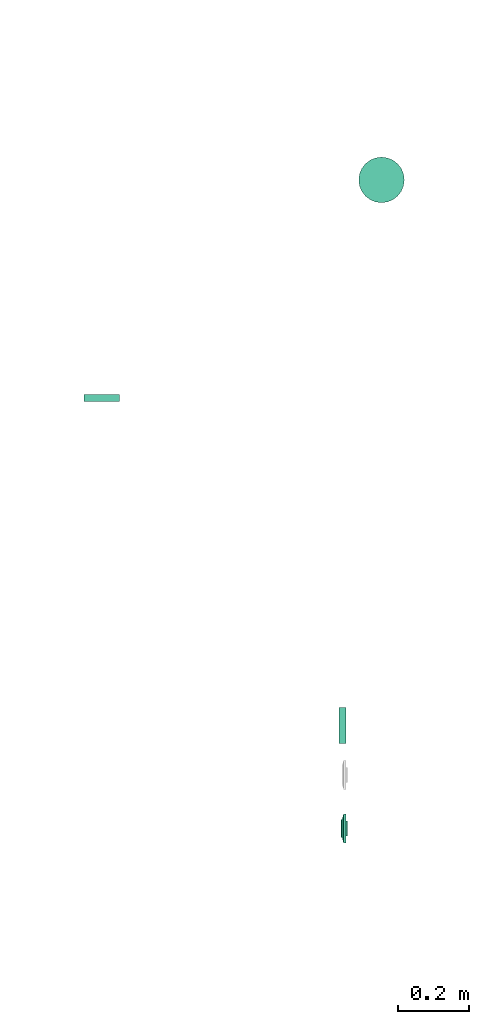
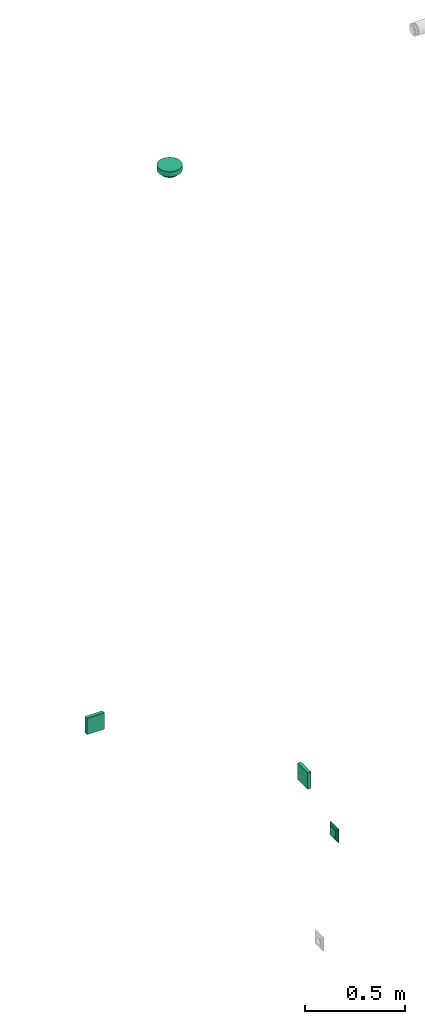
# One storey, part 144 of 153: 3 flow terminals, 1 distribution control element.
"""IFC2X3 building model written with IfcOpenShell, lengths in metres."""

from ifc_helpers import new_model, entity, si_unit, converted_unit, derived_unit, direction, frame, origin, origin_2d_with_axis, place, context, subcontext, project, spatial, rectangle, extrude, faceted_brep, source, transform, mapped, type_object, type_shapes, element, save


model = new_model("IFC2X3")

# Units and contexts
model_context = context("Model", 3, precision=1e-05, world=origin(), true_north=direction((6.12303176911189e-17, 1.0)))
body_context = subcontext(model_context, "Body", "Model", "MODEL_VIEW")
ifc_project = project(units=[si_unit("LENGTHUNIT", "METRE"), si_unit("AREAUNIT", "SQUARE_METRE"), si_unit("VOLUMEUNIT", "CUBIC_METRE"), converted_unit("PLANEANGLEUNIT", "DEGREE", entity("IfcRatioMeasure", 0.0174532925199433), si_unit("PLANEANGLEUNIT", "RADIAN"), dimensions=[0, 0, 0, 0, 0, 0, 0]), si_unit("MASSUNIT", "GRAM", prefix="KILO"), derived_unit("MASSDENSITYUNIT", [(si_unit("MASSUNIT", "GRAM", prefix="KILO"), 1), (si_unit("LENGTHUNIT", "METRE"), -3)]), si_unit("TIMEUNIT", "SECOND"), si_unit("FREQUENCYUNIT", "HERTZ"), si_unit("THERMODYNAMICTEMPERATUREUNIT", "DEGREE_CELSIUS"), derived_unit("THERMALTRANSMITTANCEUNIT", [(si_unit("MASSUNIT", "GRAM", prefix="KILO"), 1), (si_unit("THERMODYNAMICTEMPERATUREUNIT", "KELVIN"), -1), (si_unit("TIMEUNIT", "SECOND"), -3)]), derived_unit("VOLUMETRICFLOWRATEUNIT", [(si_unit("LENGTHUNIT", "METRE"), 3), (si_unit("TIMEUNIT", "SECOND"), -1)]), si_unit("ELECTRICCURRENTUNIT", "AMPERE"), si_unit("ELECTRICVOLTAGEUNIT", "VOLT"), si_unit("POWERUNIT", "WATT"), si_unit("FORCEUNIT", "NEWTON"), si_unit("ILLUMINANCEUNIT", "LUX"), si_unit("LUMINOUSFLUXUNIT", "LUMEN"), si_unit("LUMINOUSINTENSITYUNIT", "CANDELA"), derived_unit("USERDEFINED", [(si_unit("MASSUNIT", "GRAM", prefix="KILO"), -1), (si_unit("LENGTHUNIT", "METRE"), -2), (si_unit("TIMEUNIT", "SECOND"), 3), (si_unit("LUMINOUSFLUXUNIT", "LUMEN"), 1)]), derived_unit("LINEARVELOCITYUNIT", [(si_unit("LENGTHUNIT", "METRE"), 1), (si_unit("TIMEUNIT", "SECOND"), -1)]), si_unit("PRESSUREUNIT", "PASCAL"), derived_unit("USERDEFINED", [(si_unit("LENGTHUNIT", "METRE"), -2), (si_unit("MASSUNIT", "GRAM", prefix="KILO"), 1), (si_unit("TIMEUNIT", "SECOND"), -2)])], contexts=[model_context])

# Site, building, storey
site_placement = place(None, origin())
site = spatial("IfcSite", under=ifc_project, at=site_placement, Name="Default", CompositionType="ELEMENT")
building_placement = place(site_placement, origin())
building = spatial("IfcBuilding", under=site, at=building_placement, CompositionType="ELEMENT")
storey_placement = place(building_placement, frame((0.0, 0.0, -4.62)))
storey = spatial("IfcBuildingStorey", under=building, at=storey_placement, Name="S02", CompositionType="ELEMENT", Elevation=-4.62)

# Flow terminals
light_fixture_type_1 = type_object("IfcLightFixtureType", Name="Détecteur 360°", PredefinedType="NOTDEFINED")
shared_shape_1 = source(origin(), body_context, "Body", "Brep", [
    faceted_brep([(0.0, -0.0397165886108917, 0.0531256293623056), (0.0, -0.034524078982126, 0.0563702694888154), (-0.0175153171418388, -0.0435914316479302, 0.0478512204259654), (-0.0194029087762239, -0.000878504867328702, 0.0644483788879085), (0.0, 0.0, 0.0669999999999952), (0.0, 0.00603476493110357, 0.0659648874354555), (-0.0174057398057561, -0.0159851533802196, 0.0630502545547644), (-0.0366619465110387, -0.0127227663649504, 0.0549213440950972), (-0.026998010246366, -0.0195753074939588, 0.0584711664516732), (-0.0202403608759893, -0.0335607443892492, 0.054639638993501), (-0.0359767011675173, -0.0348394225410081, 0.0444249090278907), (-0.0276843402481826, -0.0401006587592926, 0.0459804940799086), (-0.0133088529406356, -0.0517577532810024, 0.0400582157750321), (-0.0172617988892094, -0.0486391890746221, 0.042533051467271), (-0.0256912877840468, -0.0533485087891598, 0.0299999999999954), (-0.0462941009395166, -0.0369183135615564, 0.0299999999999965), (0.0, -0.0241390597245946, 0.0628595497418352), (-0.0186245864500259, -0.0267295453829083, 0.0589100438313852), (-0.0139070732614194, -0.0374370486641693, 0.0540817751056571), (0.0, 0.0449090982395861, 0.049880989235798), (-0.0172618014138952, 0.0486391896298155, 0.0425330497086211), (0.0, 0.0397165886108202, 0.0531256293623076), (-0.0186245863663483, 0.0267295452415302, 0.0589100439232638), (-0.0202403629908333, 0.0335607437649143, 0.054639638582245), (-0.0353547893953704, 0.0284533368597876, 0.0494330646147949), (0.0, 0.0120695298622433, 0.0649297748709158), (-0.0249385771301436, 0.0204731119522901, 0.0590841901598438), (-0.0191783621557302, 0.0150189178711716, 0.062775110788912), (-0.0465404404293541, -0.0196510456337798, 0.0438984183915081), (-0.052010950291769, -0.0250471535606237, 0.029999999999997), (-0.0453471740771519, -0.0286501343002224, 0.0397747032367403), (-0.0365036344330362, -0.0226255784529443, 0.0516441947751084), (-0.0175153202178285, 0.0435914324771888, 0.0478512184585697), (-0.0359926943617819, 0.0451334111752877, 0.0299999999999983), (-0.0276843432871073, 0.0401006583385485, 0.0459804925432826), (-0.00849704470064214, -0.0572729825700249, 0.0299999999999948), (0.0, -0.0592123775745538, 0.0299999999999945), (0.0, -0.0545512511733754, 0.0364787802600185), (0.0, -0.049890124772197, 0.0429575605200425), (-0.0169940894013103, -0.055333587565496, 0.0299999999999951), (-0.0359767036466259, 0.0348394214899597, 0.0444249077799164), (-0.025691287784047, 0.0533485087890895, 0.0299999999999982), (-0.0308419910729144, 0.0492409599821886, 0.0299999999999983), (-0.0130265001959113, 0.0514867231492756, 0.040526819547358), (-0.0169940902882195, 0.0553335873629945, 0.029999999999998), (0.0, 0.0498901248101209, 0.0429575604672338), (-0.0353547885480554, -0.0284533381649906, 0.0494330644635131), (0.0, 0.0181042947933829, 0.0638946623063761), (-0.0473669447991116, -0.00128092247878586, 0.0474310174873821), (-0.0485435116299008, -0.00908961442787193, 0.0452357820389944), (-0.0366597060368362, -0.0032867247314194, 0.0563153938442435), (-0.0226425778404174, -0.0107553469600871, 0.0624973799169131), (0.0, -0.00603476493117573, 0.0659648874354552), (0.0, 0.0293315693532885, 0.0596149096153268), (-0.0139070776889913, 0.0374370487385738, 0.0540817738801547), (-0.0449600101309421, 0.018422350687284, 0.0461366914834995), (-0.0453471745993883, 0.0286501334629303, 0.0397747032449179), (-0.0476906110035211, 0.00670602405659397, 0.0466053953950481), (-0.0577277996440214, 0.0131759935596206, 0.0299999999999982), (-0.0577277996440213, 0.00658799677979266, 0.029999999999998), (-0.0577277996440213, 0.0, 0.0299999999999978), (0.0, -0.0449090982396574, 0.0498809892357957), (-0.0308419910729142, -0.049240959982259, 0.0299999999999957), (-0.0359926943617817, -0.0451334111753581, 0.029999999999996), (0.0, 0.0345240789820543, 0.0563702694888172), (-0.0411433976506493, 0.0410258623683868, 0.0299999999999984), (-0.0462941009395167, 0.0369183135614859, 0.0299999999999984), (-0.0491525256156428, -0.03098273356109, 0.0299999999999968), (-0.0577277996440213, -0.0131759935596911, 0.0299999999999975), (0.0, -0.018104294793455, 0.0638946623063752), (-0.0377433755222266, 0.0044838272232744, 0.0554913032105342), (-0.0577277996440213, -0.00658799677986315, 0.0299999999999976), (-0.0385149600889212, 0.0124844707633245, 0.0536578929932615), (-0.0491525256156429, 0.0309827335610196, 0.0299999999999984), (-0.0548693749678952, 0.0191115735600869, 0.0299999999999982), (0.0, 0.0241390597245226, 0.0628595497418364), (-0.014625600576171, 0.0100436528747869, 0.0649170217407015), (-0.0271766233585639, 0.00920278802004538, 0.0609170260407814), (0.0, -0.0120695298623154, 0.0649297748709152), (-0.0520109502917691, 0.0250471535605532, 0.0299999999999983), (-0.0411433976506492, -0.0410258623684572, 0.0299999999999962), (-0.0548693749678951, -0.0191115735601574, 0.0299999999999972), (0.0, -0.0293315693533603, 0.0596149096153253), (0.0, 0.0545512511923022, 0.0364787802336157), (0.0, 0.0592123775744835, 0.0299999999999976), (-0.00849704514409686, 0.057272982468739, 0.0299999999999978), (-0.0127455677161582, 0.0563032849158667, 0.0299999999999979), (-0.0213426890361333, 0.054341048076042, 0.0299999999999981), (0.0175153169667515, 0.0435914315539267, 0.0478512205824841), (0.0194029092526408, 0.000878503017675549, 0.0644483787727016), (0.017405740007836, 0.0159851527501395, 0.0630502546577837), (0.0366619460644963, 0.012722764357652, 0.0549213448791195), (0.0269980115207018, 0.0195753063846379, 0.0584711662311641), (0.0202403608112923, 0.0335607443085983, 0.0546396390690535), (0.0359767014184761, 0.0348394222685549, 0.0444249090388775), (0.0276843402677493, 0.0401006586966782, 0.0459804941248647), (0.0133088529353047, 0.0517577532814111, 0.0400582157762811), (0.0172617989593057, 0.0486391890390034, 0.0425330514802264), (0.0256912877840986, 0.0533485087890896, 0.0299999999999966), (0.0462941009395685, 0.0369183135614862, 0.0299999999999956), (0.00849704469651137, 0.0572729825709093, 0.0299999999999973), (0.0169940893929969, 0.0553335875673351, 0.029999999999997), (0.0172617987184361, -0.0486391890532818, 0.0425330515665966), (0.025691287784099, -0.0533485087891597, 0.0299999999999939), (0.0308419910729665, -0.0492409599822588, 0.0299999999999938), (0.0175153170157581, -0.0435914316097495, 0.0478512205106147), (0.0186245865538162, -0.0267295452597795, 0.0589100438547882), (0.0202403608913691, -0.03356074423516, 0.0546396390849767), (0.0353547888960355, -0.0284533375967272, 0.0494330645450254), (0.0249385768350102, -0.0204731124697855, 0.0590841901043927), (0.0191783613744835, -0.0150189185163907, 0.062775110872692), (0.0465404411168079, 0.0196510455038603, 0.0438984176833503), (0.0577277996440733, 0.0131759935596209, 0.0299999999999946), (0.0548693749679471, 0.0191115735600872, 0.0299999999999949), (0.0520109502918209, 0.0250471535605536, 0.0299999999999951), (0.0365036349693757, 0.0226255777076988, 0.0516441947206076), (0.0186245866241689, 0.0267295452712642, 0.0589100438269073), (0.0359926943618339, -0.0451334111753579, 0.0299999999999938), (0.0276843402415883, -0.0401006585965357, 0.0459804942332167), (0.0139070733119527, 0.0374370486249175, 0.0540817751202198), (0.0359767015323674, -0.0348394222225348, 0.044424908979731), (0.0226425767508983, 0.0107553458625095, 0.0624973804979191), (0.0169940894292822, -0.0553335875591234, 0.0299999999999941), (0.0130264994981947, -0.0514867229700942, 0.0405268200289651), (0.0453471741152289, 0.0286501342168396, 0.039774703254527), (0.0353547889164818, 0.0284533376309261, 0.0494330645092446), (0.0473669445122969, 0.00128092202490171, 0.0474310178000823), (0.0485435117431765, 0.00908961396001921, 0.0452357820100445), (0.0366597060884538, 0.00328672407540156, 0.0563153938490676), (0.0139070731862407, -0.0374370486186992, 0.0540817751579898), (0.0449600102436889, -0.018422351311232, 0.0461366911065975), (0.0453471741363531, -0.0286501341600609, 0.039774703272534), (0.0476906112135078, -0.00670602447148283, 0.046605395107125), (0.0577277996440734, -0.0131759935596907, 0.0299999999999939), (0.0577277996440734, -0.00658799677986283, 0.0299999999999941), (0.0577277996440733, 0.0, 0.0299999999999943), (0.0308419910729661, 0.0492409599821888, 0.0299999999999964), (0.0359926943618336, 0.0451334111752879, 0.0299999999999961), (0.0411433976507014, -0.041025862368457, 0.0299999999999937), (0.0462941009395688, -0.0369183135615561, 0.0299999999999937), (0.0491525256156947, 0.0309827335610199, 0.0299999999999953), (0.037743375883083, -0.00448382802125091, 0.0554913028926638), (0.0577277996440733, 0.00658799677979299, 0.0299999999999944), (0.0385149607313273, -0.0124844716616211, 0.0536578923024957), (0.049152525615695, -0.0309827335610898, 0.0299999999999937), (0.0548693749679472, -0.0191115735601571, 0.0299999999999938), (0.0146256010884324, -0.0100436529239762, 0.0649170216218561), (0.0271766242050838, -0.00920278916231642, 0.0609170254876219), (0.0520109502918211, -0.0250471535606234, 0.0299999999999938), (0.041143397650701, 0.0410258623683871, 0.0299999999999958), (0.00849704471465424, -0.0572729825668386, 0.0299999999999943), (0.0127455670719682, -0.056303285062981, 0.0299999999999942), (0.0213426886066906, -0.0543410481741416, 0.029999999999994), (0.0, 0.0, 0.0299999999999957)], [[[0, 1, 2]], [[3, 4, 5]], [[6, 7, 8]], [[9, 10, 11]], [[12, 13, 14]], [[10, 15, 11]], [[9, 16, 17]], [[18, 9, 11]], [[19, 20, 21]], [[22, 23, 24]], [[25, 26, 27]], [[28, 29, 30]], [[8, 31, 17]], [[32, 33, 34]], [[35, 36, 37, 38, 39]], [[23, 40, 24]], [[20, 41, 42]], [[19, 43, 20]], [[44, 43, 45]], [[20, 32, 21]], [[30, 10, 46]], [[22, 26, 47]], [[48, 49, 50]], [[3, 51, 52]], [[53, 54, 23]], [[55, 24, 56]], [[57, 58, 59, 60]], [[13, 61, 0]], [[13, 0, 2]], [[2, 62, 13]], [[18, 2, 1]], [[2, 11, 63]], [[32, 64, 21]], [[32, 42, 33]], [[34, 33, 65, 66]], [[20, 42, 32]], [[54, 32, 34]], [[28, 30, 31]], [[10, 67, 15]], [[49, 68, 28]], [[8, 17, 69]], [[7, 6, 51]], [[28, 31, 7]], [[57, 48, 70]], [[58, 57, 55]], [[48, 71, 49]], [[70, 48, 50]], [[3, 50, 51]], [[55, 26, 24]], [[72, 57, 70]], [[26, 55, 72]], [[56, 40, 73]], [[56, 74, 55]], [[47, 75, 22]], [[52, 4, 3]], [[7, 50, 49]], [[5, 76, 3]], [[70, 3, 77]], [[51, 78, 52]], [[26, 25, 47]], [[76, 25, 27]], [[23, 22, 75]], [[26, 22, 24]], [[53, 64, 54]], [[23, 34, 40]], [[66, 40, 34]], [[40, 66, 73]], [[56, 73, 79, 74]], [[72, 27, 26]], [[40, 56, 24]], [[23, 75, 53]], [[69, 17, 16]], [[78, 6, 69]], [[46, 10, 9]], [[46, 9, 17]], [[50, 7, 51]], [[30, 29, 67]], [[80, 63, 11, 15]], [[28, 68, 81, 29]], [[10, 30, 67]], [[30, 46, 31]], [[82, 18, 1]], [[82, 16, 9]], [[28, 7, 49]], [[12, 39, 38]], [[61, 13, 12]], [[83, 84, 85, 86, 44, 45]], [[43, 41, 20]], [[44, 87, 41, 43]], [[32, 54, 64]], [[23, 54, 34]], [[9, 18, 82]], [[2, 18, 11]], [[39, 12, 14]], [[38, 61, 12]], [[62, 2, 63]], [[62, 14, 13]], [[17, 31, 46]], [[7, 31, 8]], [[48, 60, 71]], [[71, 68, 49]], [[60, 48, 57]], [[3, 70, 50]], [[72, 70, 77]], [[72, 77, 27]], [[55, 57, 72]], [[74, 58, 55]], [[76, 27, 77]], [[3, 76, 77]], [[25, 76, 5]], [[69, 6, 8]], [[78, 51, 6]], [[45, 43, 19]], [[21, 64, 88]], [[89, 4, 52]], [[90, 91, 92]], [[93, 94, 95]], [[96, 97, 98]], [[94, 99, 95]], [[100, 84, 83, 45, 101]], [[102, 103, 104]], [[102, 105, 0]], [[106, 107, 108]], [[78, 109, 110]], [[111, 112, 113, 114]], [[92, 115, 116]], [[105, 117, 118]], [[119, 93, 95]], [[107, 120, 108]], [[89, 121, 5]], [[122, 123, 38]], [[61, 123, 102]], [[93, 75, 116]], [[124, 94, 125]], [[106, 109, 69]], [[126, 127, 128]], [[61, 102, 0]], [[82, 129, 107]], [[130, 108, 131]], [[132, 133, 134, 135]], [[97, 19, 21]], [[97, 21, 88]], [[88, 136, 97]], [[119, 88, 64]], [[88, 95, 137]], [[105, 1, 0]], [[105, 104, 117]], [[118, 117, 138, 139]], [[102, 104, 105]], [[129, 105, 118]], [[111, 124, 115]], [[94, 140, 99]], [[127, 112, 111]], [[92, 116, 47]], [[91, 90, 121]], [[111, 115, 91]], [[132, 126, 141]], [[133, 132, 130]], [[126, 142, 127]], [[141, 126, 128]], [[89, 128, 121]], [[130, 109, 108]], [[143, 132, 141]], [[109, 130, 143]], [[131, 120, 144]], [[131, 145, 130]], [[69, 16, 106]], [[5, 4, 89]], [[91, 128, 127]], [[52, 146, 89]], [[141, 89, 147]], [[121, 25, 5]], [[109, 78, 69]], [[146, 78, 110]], [[107, 106, 16]], [[109, 106, 108]], [[82, 1, 129]], [[107, 118, 120]], [[139, 120, 118]], [[120, 139, 144]], [[131, 144, 148, 145]], [[143, 110, 109]], [[120, 131, 108]], [[107, 16, 82]], [[47, 116, 75]], [[25, 90, 47]], [[125, 94, 93]], [[125, 93, 116]], [[128, 91, 121]], [[124, 114, 140]], [[149, 137, 95, 99]], [[111, 114, 124]], [[94, 124, 140]], [[124, 125, 115]], [[53, 119, 64]], [[53, 75, 93]], [[111, 91, 127]], [[96, 101, 45]], [[19, 97, 96]], [[37, 36, 150, 151, 122, 38]], [[123, 103, 102]], [[122, 152, 103, 123]], [[105, 129, 1]], [[107, 129, 118]], [[93, 119, 53]], [[88, 119, 95]], [[101, 96, 98]], [[45, 19, 96]], [[136, 88, 137]], [[136, 98, 97]], [[116, 115, 125]], [[91, 115, 92]], [[126, 135, 142]], [[142, 112, 127]], [[135, 126, 132]], [[89, 141, 128]], [[143, 141, 147]], [[143, 147, 110]], [[130, 132, 143]], [[145, 133, 130]], [[146, 110, 147]], [[89, 146, 147]], [[78, 146, 52]], [[47, 90, 92]], [[25, 121, 90]], [[38, 123, 61]], [[153, 66, 65]], [[153, 65, 33]], [[153, 33, 42]], [[153, 42, 41]], [[153, 41, 87]], [[153, 73, 66]], [[153, 79, 73]], [[153, 74, 79]], [[153, 58, 74]], [[153, 87, 44]], [[153, 44, 86]], [[153, 86, 85]], [[153, 85, 84]], [[153, 84, 100]], [[153, 59, 58]], [[153, 60, 59]], [[153, 71, 60]], [[153, 68, 71]], [[153, 81, 68]], [[153, 29, 81]], [[153, 67, 29]], [[153, 15, 67]], [[153, 80, 15]], [[153, 63, 80]], [[153, 62, 63]], [[153, 14, 62]], [[153, 39, 14]], [[153, 35, 39]], [[153, 36, 35]], [[153, 100, 101]], [[153, 101, 98]], [[153, 98, 136]], [[153, 136, 137]], [[153, 137, 149]], [[153, 149, 99]], [[153, 99, 140]], [[153, 140, 114]], [[153, 114, 113]], [[153, 113, 112]], [[153, 112, 142]], [[153, 150, 36]], [[153, 151, 150]], [[153, 122, 151]], [[153, 152, 122]], [[153, 103, 152]], [[153, 104, 103]], [[153, 117, 104]], [[153, 138, 117]], [[153, 139, 138]], [[153, 144, 139]], [[153, 148, 144]], [[153, 145, 148]], [[153, 133, 145]], [[153, 142, 135]], [[153, 135, 134]], [[153, 134, 133]]]),
    faceted_brep([(0.0165644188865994, -0.0618192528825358, 0.029999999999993), (0.0320000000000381, -0.0554256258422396, 0.0299999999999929), (0.0452548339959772, -0.0452548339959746, 0.0299999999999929), (0.0554256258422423, -0.0320000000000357, 0.029999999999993), (0.0618192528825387, -0.016564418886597, 0.0299999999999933), (0.0640000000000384, 0.0, 0.0299999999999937), (0.0618192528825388, 0.016564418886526, 0.0299999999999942), (0.0554256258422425, 0.0319999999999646, 0.0299999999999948), (0.0452548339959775, 0.0452548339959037, 0.0299999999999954), (0.0320000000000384, 0.0554256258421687, 0.0299999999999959), (0.0165644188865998, 0.061819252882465, 0.0299999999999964), (0.0, 0.0639999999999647, 0.0299999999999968), (-0.0165644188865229, 0.061819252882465, 0.0299999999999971), (-0.0319999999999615, 0.0554256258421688, 0.0299999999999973), (-0.0452548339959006, 0.0452548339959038, 0.0299999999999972), (-0.0554256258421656, 0.0319999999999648, 0.0299999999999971), (-0.0618192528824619, 0.0165644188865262, 0.0299999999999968), (-0.0639999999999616, 0.0, 0.0299999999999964), (-0.061819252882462, -0.0165644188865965, 0.0299999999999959), (-0.0554256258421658, -0.0320000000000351, 0.0299999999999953), (-0.0452548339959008, -0.0452548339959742, 0.0299999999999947), (-0.0319999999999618, -0.0554256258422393, 0.0299999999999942), (-0.0165644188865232, -0.0618192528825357, 0.0299999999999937), (0.0, -0.0640000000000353, 0.0299999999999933), (0.0165644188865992, 0.0618192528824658, 0.0), (0.0320000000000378, 0.0554256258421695, 0.0), (0.0452548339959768, 0.0452548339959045, 0.0), (0.0554256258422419, 0.0319999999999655, 0.0), (0.0618192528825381, 0.0165644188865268, 0.0), (0.0640000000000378, 0.0, 0.0), (0.061819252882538, -0.0165644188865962, 0.0), (0.0554256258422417, -0.0320000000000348, 0.0), (0.0452548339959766, -0.0452548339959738, 0.0), (0.0320000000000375, -0.0554256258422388, 0.0), (0.0165644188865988, -0.061819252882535, 0.0), (0.0, -0.0640000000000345, 0.0), (-0.0165644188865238, -0.0618192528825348, 0.0), (-0.0319999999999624, -0.0554256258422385, 0.0), (-0.0452548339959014, -0.0452548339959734, 0.0), (-0.0554256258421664, -0.0320000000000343, 0.0), (-0.0618192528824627, -0.0165644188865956, 0.0), (-0.0639999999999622, 0.0, 0.0), (-0.0618192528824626, 0.016564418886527, 0.0), (-0.0554256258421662, 0.0319999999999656, 0.0), (-0.0452548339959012, 0.0452548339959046, 0.0), (-0.0319999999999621, 0.0554256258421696, 0.0), (-0.0165644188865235, 0.0618192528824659, 0.0), (0.0, 0.0639999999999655, 0.0)], [[[0, 1, 2, 3, 4, 5, 6, 7, 8, 9, 10, 11, 12, 13, 14, 15, 16, 17, 18, 19, 20, 21, 22, 23]], [[24, 25, 26, 27, 28, 29, 30, 31, 32, 33, 34, 35, 36, 37, 38, 39, 40, 41, 42, 43, 44, 45, 46, 47]], [[40, 18, 17, 41]], [[39, 19, 18, 40]], [[21, 20, 38, 37]], [[39, 38, 20, 19]], [[22, 21, 37, 36]], [[23, 22, 36, 35]], [[34, 0, 23, 35]], [[33, 1, 0, 34]], [[3, 2, 32, 31]], [[33, 32, 2, 1]], [[4, 3, 31, 30]], [[5, 4, 30, 29]], [[28, 6, 5, 29]], [[27, 7, 6, 28]], [[9, 8, 26, 25]], [[27, 26, 8, 7]], [[10, 9, 25, 24]], [[11, 10, 24, 47]], [[46, 12, 11, 47]], [[45, 13, 12, 46]], [[42, 41, 17, 16]], [[44, 14, 13, 45]], [[43, 15, 14, 44]], [[43, 42, 16, 15]]]),
])
type_shapes(light_fixture_type_1, [shared_shape_1])
flow_terminal_1_placement = place(storey_placement, frame((65.4897436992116, -184.304488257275, 3.79999999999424), z_axis=(0.0, 0.0, -1.0), x_axis=(1.0, 0.0, 0.0)))
element("IfcFlowTerminal", 1, at=flow_terminal_1_placement, inside=storey, type_object=light_fixture_type_1, Name="INT - Détecteur 360°:Détecteur 360°", ObjectType="INT - Détecteur 360°:Détecteur 360°", context=body_context, shape_type="MappedRepresentation", body=[
    mapped(shared_shape_1, transform((0.0, 0.0, 0.0), scale=1.0)),
])
light_fixture_type_2 = type_object("IfcLightFixtureType", Name="Default", PredefinedType="NOTDEFINED")
shared_shape_2 = source(origin(), body_context, "Body", "SweptSolid", [
    extrude(rectangle(XDim=0.1, YDim=0.1, at=origin_2d_with_axis()), frame((0.0, 0.0, 0.0), z_axis=(0.0, 0.0, 1.0), x_axis=(0.0, 1.0, 0.0)), (0.0, 0.0, 1.0), 0.02),
])
type_shapes(light_fixture_type_2, [shared_shape_2])
flow_terminal_2_placement = place(storey_placement, frame((64.7043065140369, -184.926487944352, 1.05000000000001), z_axis=(0.0, 1.0, 0.0), x_axis=(-1.0, 0.0, 0.0)))
element("IfcFlowTerminal", 2, at=flow_terminal_2_placement, inside=storey, type_object=light_fixture_type_2, Name="E_Reader_Badge 1_F_MEPcontent:Default", ObjectType="E_Reader_Badge 1_F_MEPcontent:Default", context=body_context, shape_type="MappedRepresentation", body=[
    mapped(shared_shape_2, transform((0.0, 0.0, 0.0), scale=1.0)),
])
light_fixture_type_3 = type_object("IfcLightFixtureType", Name="VV IP44", PredefinedType="NOTDEFINED")
shared_shape_3 = source(origin(), body_context, "Body", "Brep", [
    faceted_brep([(0.0, 0.0209999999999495, -0.00460000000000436), (0.00543519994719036, 0.02028444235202, -0.00460000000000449), (0.0105000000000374, 0.0181865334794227, -0.00460000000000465), (0.0148492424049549, 0.014849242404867, -0.00460000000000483), (0.0181865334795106, 0.0104999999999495, -0.00460000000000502), (0.0202844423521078, 0.00543519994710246, -0.00460000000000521), (0.0210000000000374, 0.0, -0.00460000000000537), (0.0202844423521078, -0.00543519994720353, -0.00460000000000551), (0.0181865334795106, -0.0105000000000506, -0.0046000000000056), (0.0148492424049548, -0.0148492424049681, -0.00460000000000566), (0.0105000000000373, -0.0181865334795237, -0.00460000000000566), (0.00543519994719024, -0.0202844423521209, -0.00460000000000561), (0.0, -0.0210000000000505, -0.00460000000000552), (-0.00543519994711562, -0.0202844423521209, -0.00460000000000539), (-0.0104999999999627, -0.0181865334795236, -0.00460000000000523), (-0.0148492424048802, -0.0148492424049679, -0.00460000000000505), (-0.0181865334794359, -0.0105000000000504, -0.00460000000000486), (-0.0202844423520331, -0.00543519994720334, -0.00460000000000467), (-0.0209999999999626, 0.0, -0.00460000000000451), (-0.020284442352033, 0.00543519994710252, -0.00460000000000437), (-0.0181865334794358, 0.0104999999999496, -0.00460000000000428), (-0.0148492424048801, 0.0148492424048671, -0.00460000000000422), (-0.0104999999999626, 0.0181865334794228, -0.00460000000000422), (-0.00543519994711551, 0.02028444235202, -0.00460000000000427), (-0.020284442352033, -0.00543519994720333, 0.0), (-0.0209999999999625, 0.0, 0.0), (-0.0181865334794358, -0.0105000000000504, 0.0), (-0.0104999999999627, -0.0181865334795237, 0.0), (-0.0148492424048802, -0.0148492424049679, 0.0), (-0.00543519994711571, -0.020284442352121, 0.0), (0.0, -0.0210000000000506, 0.0), (0.00543519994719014, -0.0202844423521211, 0.0), (0.0105000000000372, -0.018186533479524, 0.0), (0.0181865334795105, -0.0105000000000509, 0.0), (0.0148492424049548, -0.0148492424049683, 0.0), (0.0202844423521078, -0.00543519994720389, 0.0), (0.0210000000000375, 0.0, 0.0), (0.0202844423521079, 0.00543519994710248, 0.0), (0.0181865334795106, 0.0104999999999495, 0.0), (0.0105000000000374, 0.0181865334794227, 0.0), (0.0148492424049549, 0.014849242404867, 0.0), (0.00543519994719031, 0.0202844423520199, 0.0), (0.0, 0.0209999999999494, 0.0), (-0.00543519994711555, 0.0202844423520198, 0.0), (-0.0104999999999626, 0.0181865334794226, 0.0), (-0.0181865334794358, 0.0104999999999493, 0.0), (-0.0148492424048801, 0.0148492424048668, 0.0), (-0.020284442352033, 0.00543519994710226, 0.0)], [[[0, 1, 2, 3, 4, 5, 6, 7, 8, 9, 10, 11, 12, 13, 14, 15, 16, 17, 18, 19, 20, 21, 22, 23]], [[17, 24, 25, 18]], [[16, 26, 24, 17]], [[27, 28, 15, 14]], [[16, 15, 28, 26]], [[29, 27, 14, 13]], [[30, 29, 13, 12]], [[11, 31, 30, 12]], [[10, 32, 31, 11]], [[33, 34, 9, 8]], [[10, 9, 34, 32]], [[35, 33, 8, 7]], [[36, 35, 7, 6]], [[5, 37, 36, 6]], [[4, 38, 37, 5]], [[39, 40, 3, 2]], [[4, 3, 40, 38]], [[41, 39, 2, 1]], [[42, 41, 1, 0]], [[23, 43, 42, 0]], [[22, 44, 43, 23]], [[45, 46, 21, 20]], [[22, 21, 46, 44]], [[47, 45, 20, 19]], [[25, 47, 19, 18]], [[25, 24, 26, 28, 27, 29, 30, 31, 32, 34, 33, 35, 36, 37, 38, 40, 39, 41, 42, 43, 44, 46, 45, 47]]]),
    faceted_brep([(0.0270000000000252, 0.026999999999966, 0.0103999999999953), (-0.0269999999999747, 0.026999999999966, 0.0103999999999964), (-0.0269999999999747, -0.0270000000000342, 0.0103999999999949), (0.0270000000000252, -0.0270000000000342, 0.0103999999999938), (-0.0254999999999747, 0.0258096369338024, 0.0103999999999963), (0.0255000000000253, 0.0258096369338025, 0.0103999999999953), (0.0255000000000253, -0.0255000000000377, 0.0103999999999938), (-0.0254999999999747, -0.0255000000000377, 0.0103999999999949), (0.0270000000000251, 0.0269999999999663, 0.00199999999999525), (0.0270000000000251, -0.0270000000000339, 0.00199999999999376), (-0.0269999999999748, -0.0270000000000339, 0.00199999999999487), (-0.0269999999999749, 0.0269999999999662, 0.00199999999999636), (0.0255000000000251, 0.0258096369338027, 0.00199999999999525), (-0.0254999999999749, 0.0258096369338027, 0.0019999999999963), (-0.0254999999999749, -0.0255000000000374, 0.00199999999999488), (0.0255000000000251, -0.0255000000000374, 0.00199999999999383)], [[[0, 1, 2, 3], [4, 5, 6, 7]], [[8, 9, 10, 11], [12, 13, 14, 15]], [[1, 0, 8, 11]], [[2, 1, 11, 10]], [[3, 2, 10, 9]], [[0, 3, 9, 8]], [[12, 5, 4, 13]], [[13, 4, 7, 14]], [[14, 7, 6, 15]], [[5, 12, 15, 6]]]),
    faceted_brep([(0.0250000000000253, 0.0253096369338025, 0.00659999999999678), (0.0250000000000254, 0.0253096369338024, 0.0117095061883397), (0.0250000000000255, -0.0245000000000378, 0.0142232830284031), (0.0250000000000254, -0.0250000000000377, 0.0117095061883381), (0.0250000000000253, -0.0250000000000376, 0.00659999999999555), (-0.0249999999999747, 0.0253096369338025, 0.00659999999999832), (-0.0249999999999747, -0.0250000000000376, 0.00659999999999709), (-0.0249999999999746, -0.0250000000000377, 0.0117095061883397), (-0.0249999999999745, -0.0245000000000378, 0.0142232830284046), (-0.0249999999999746, 0.0253096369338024, 0.0117095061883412)], [[[0, 1, 2, 3, 4]], [[5, 6, 7, 8, 9]], [[1, 0, 5, 9]], [[2, 1, 9, 8]], [[3, 2, 8, 7]], [[4, 3, 7, 6]], [[0, 4, 6, 5]]]),
    faceted_brep([(0.027000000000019, 0.0269999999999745, 0.00659999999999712), (-0.0269999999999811, 0.0269999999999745, 0.00659999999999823), (-0.026999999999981, -0.0270000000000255, 0.00659999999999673), (0.027000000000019, -0.0270000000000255, 0.00659999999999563), (0.040350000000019, 0.0403499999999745, 0.00659999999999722), (0.040350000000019, -0.0403500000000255, 0.00659999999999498), (-0.0403499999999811, -0.0403500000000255, 0.00659999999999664), (-0.0403499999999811, 0.0403499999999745, 0.00659999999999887), (-0.026999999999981, 0.0269999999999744, 0.0103999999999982), (0.027000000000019, 0.0269999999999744, 0.0103999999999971), (-0.026999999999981, -0.0270000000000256, 0.0103999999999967), (0.027000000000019, -0.0270000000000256, 0.0103999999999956)], [[[0, 1, 2, 3], [4, 5, 6, 7]], [[4, 7, 8, 9]], [[7, 6, 10, 8]], [[6, 5, 11, 10]], [[5, 4, 9, 11]], [[0, 9, 8, 1]], [[1, 8, 10, 2]], [[2, 10, 11, 3]], [[9, 0, 3, 11]]], outer=[[False, True], [True], [True], [True], [True], [True], [True], [True], [True]]),
    faceted_brep([(0.040350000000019, 0.0403499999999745, 0.00659999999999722), (-0.0403499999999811, 0.0403499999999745, 0.00659999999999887), (-0.0403499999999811, -0.0403500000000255, 0.00659999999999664), (0.040350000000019, -0.0403500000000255, 0.00659999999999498), (-0.0269999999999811, 0.0269999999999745, 0.00659999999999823), (0.0270000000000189, 0.0269999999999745, 0.00659999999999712), (0.0270000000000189, -0.0270000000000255, 0.00659999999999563), (-0.0269999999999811, -0.0270000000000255, 0.00659999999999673), (0.0403500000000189, 0.0403499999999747, 0.0), (0.0403500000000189, -0.0403500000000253, 0.0), (-0.0403499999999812, -0.0403500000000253, 0.0), (-0.0403499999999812, 0.0403499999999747, 0.0), (0.0270000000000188, 0.0269999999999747, 0.0), (-0.0269999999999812, 0.0269999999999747, 0.0), (-0.0269999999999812, -0.0270000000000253, 0.0), (0.0270000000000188, -0.0270000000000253, 0.0)], [[[0, 1, 2, 3], [4, 5, 6, 7]], [[8, 9, 10, 11], [12, 13, 14, 15]], [[1, 0, 8, 11]], [[2, 1, 11, 10]], [[3, 2, 10, 9]], [[0, 3, 9, 8]], [[12, 5, 4, 13]], [[13, 4, 7, 14]], [[14, 7, 6, 15]], [[5, 12, 15, 6]]]),
])
type_shapes(light_fixture_type_3, [shared_shape_3])
flow_terminal_3_placement = place(storey_placement, frame((65.3897436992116, -186.125955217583, 0.880000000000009), z_axis=(-1.0, 0.0, 0.0), x_axis=(0.0, -1.0, 0.0)))
element("IfcFlowTerminal", 3, at=flow_terminal_3_placement, inside=storey, type_object=light_fixture_type_3, Name="INT_Inter VV:VV IP44", ObjectType="INT_Inter VV:VV IP44", context=body_context, shape_type="MappedRepresentation", body=[
    mapped(shared_shape_3, transform((0.0, 0.0, 0.0), scale=1.0)),
])

# Distribution control element
alarm_type = type_object("IfcAlarmType", Name="Incendie_Déclenheur manuel", PredefinedType="NOTDEFINED")
shared_shape_4 = source(origin(), body_context, "Body", "SweptSolid", [
    extrude(rectangle(XDim=0.1, YDim=0.1, at=origin_2d_with_axis()), frame((0.0, 0.0, 0.0), z_axis=(0.0, 0.0, 1.0), x_axis=(0.0, 1.0, 0.0)), (0.0, 0.0, 1.0), 0.02),
])
type_shapes(alarm_type, [shared_shape_4])
distribution_control_element_placement = place(building_placement, frame((65.3897436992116, -185.836799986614, -3.56999999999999), z_axis=(-1.0, 0.0, 0.0), x_axis=(0.0, -1.0, 0.0)))
element("IfcDistributionControlElement", 4, at=distribution_control_element_placement, inside=storey, type_object=alarm_type, Name="INT_Déclenheur manuel:Incendie_Déclenheur manuel", ObjectType="INT_Déclenheur manuel:Incendie_Déclenheur manuel", context=body_context, shape_type="MappedRepresentation", body=[
    mapped(shared_shape_4, transform((0.0, 0.0, 0.0), scale=1.0)),
])

save(model, "model.ifc")
